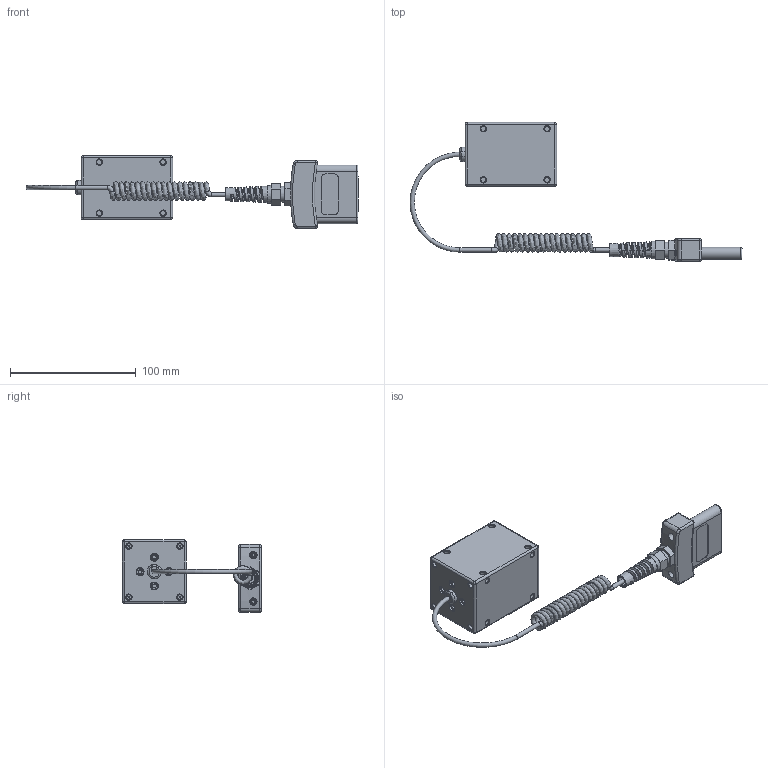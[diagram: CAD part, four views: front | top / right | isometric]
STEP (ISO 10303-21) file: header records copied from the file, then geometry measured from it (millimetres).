
FILE_DESCRIPTION((''),'2;1');
FILE_NAME('F:\CAD files\Itr\3D MARKETING MODELS\TORQUE SENSORS\MR52\MR52.stp','2017-04-18T11:32:02',('mlampen'),(''),'Autodesk Inventor 2010','Autodesk Inventor 2010','');
FILE_SCHEMA(('AUTOMOTIVE_DESIGN { 1 0 10303 214 1 1 1 1 }'));
Length unit declared in the file: inch
Products named in the file (1): Part2
Bounding box: 264.49 x 110.74 x 57.75 mm (x, y, z)
Volume: 226140.3 mm3; surface area: 47969.2 mm2
Topology: 6 solids, 6 shells, 691 faces, 1747 edges, 1100 vertices
Faces by surface type: plane 279, cylinder 157, cone 143, bspline 82, torus 18, sphere 12
Full cylindrical faces by diameter (mm): 3.175 x2, 3.429 x2, 3.505 x4, 4.039 x44, 4.648 x2, 5.74 x4, 5.842 x2, 6.35 x4, 7.62 x6, 11.176 x1, 12.7 x1, 14.732 x1, 45.72 x1, 46.99 x1
Entity records: 28189 total; most frequent: CARTESIAN_POINT 13700, ORIENTED_EDGE 2982, DIRECTION 2804, EDGE_CURVE 1491, AXIS2_PLACEMENT_3D 1182, VERTEX_POINT 1008, EDGE_LOOP 907, FACE_OUTER_BOUND 681
